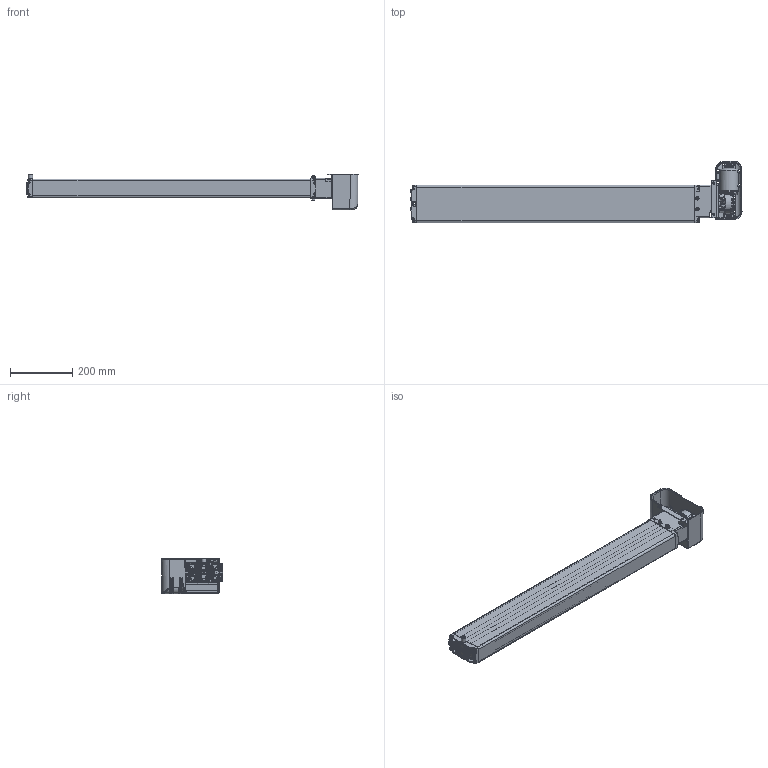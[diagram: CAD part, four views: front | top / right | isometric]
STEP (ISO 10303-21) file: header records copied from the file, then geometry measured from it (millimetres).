
FILE_DESCRIPTION(/* description */ ('Unknown'),/* implementation_level */ '2;1');
FILE_NAME(/* name */ '3X2.20167 Pumpe PB 5440 W mit Antrieb',/* time_stamp */ '2016-10-24T09:06:10+02:00',/* author */ ('Unknown'),/* organization */ ('Unknown'),/* preprocessor_version */ 'ST-DEVELOPER v16.7',/* originating_system */ 'DEX',/* authorisation */ $);
FILE_SCHEMA (('AUTOMOTIVE_DESIGN {1 0 10303 214 3 1 1}'));
Products named in the file (32): 102.00167; 115.00027; 125.00044; 115.00007; 142.00021; 125.00021; 142.00013; 142.00110; 125.00147; 115.00140; 126.00006; 122.00040; 119.00047; 126.00005; 127.00201; 127.00200; 127.00023; 124.00090; Getriebe; Ring; Schraube; Stator; Abdeckplatte; Antriebswelle; 128.00051; 123.00031; 142.00018; 142.00019; 142.00025; 142.00131; 123.00029; 142.00057
Assembly tree (47 placements, depth 3):
  102.00167
    115.00027  x5
      125.00044
      115.00007
      142.00021
      125.00021
    142.00013  x8
    142.00110
    125.00147
    115.00140
      126.00006
      122.00040
    119.00047
    126.00005
    127.00201
      127.00200
      127.00023
    124.00090
      Getriebe
      Ring
      Schraube
      Stator
      Abdeckplatte
      Antriebswelle
    128.00051
    123.00031
    142.00018  x2
    142.00019  x2
    142.00025  x2
    142.00131  x3
    123.00029
    142.00057
Bounding box: 1065.92 x 196.04 x 115.45 mm (x, y, z)
Volume: 1575910.4 mm3; surface area: 1056404 mm2
Topology: 50 solids, 52 shells, 4821 faces, 12210 edges, 7401 vertices
Faces by surface type: bspline 1367, plane 1316, cylinder 1269, cone 501, torus 268, sphere 100
Full cylindrical faces by diameter (mm): 2.5 x4, 3.2 x4, 3.5 x5, 3.9 x5, 4.1 x5, 4.2 x7, 4.4 x5, 4.5 x1, 4.917 x2, 5 x8, 5.5 x5, 6 x6, 6.4 x2, 6.8 x5, 6.917 x10, 7 x1, 8 x12, 8.5 x6, 9 x2, 9.5 x1, 9.8 x8, 10 x8, 10.3 x1, 10.32 x1, 10.4 x6, 11 x5, 13.9 x10, 14 x2, 15 x1, 15.8 x1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
Entity records: 202744 total; most frequent: CARTESIAN_POINT 105890, ORIENTED_EDGE 19228, DIRECTION 14239, EDGE_CURVE 9614, VERTEX_POINT 6195, AXIS2_PLACEMENT_3D 5608, FACE_BOUND 4601, EDGE_LOOP 4596
